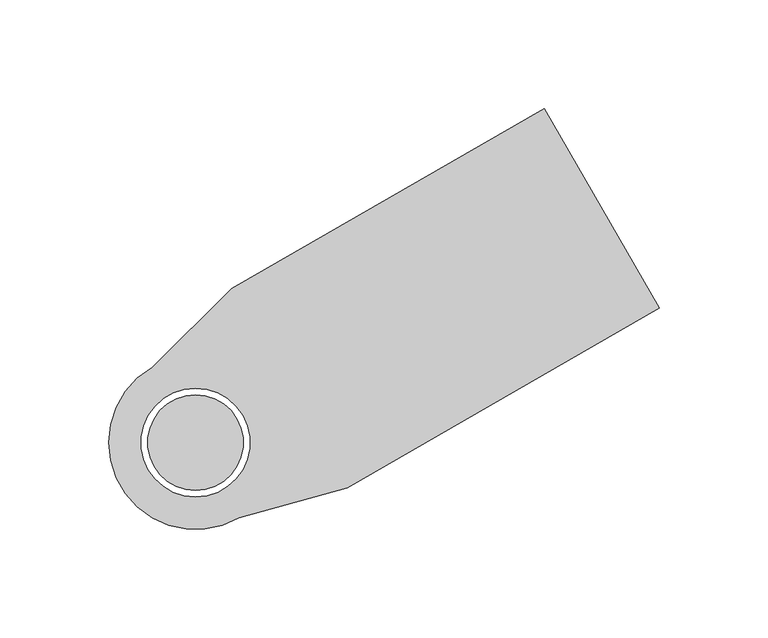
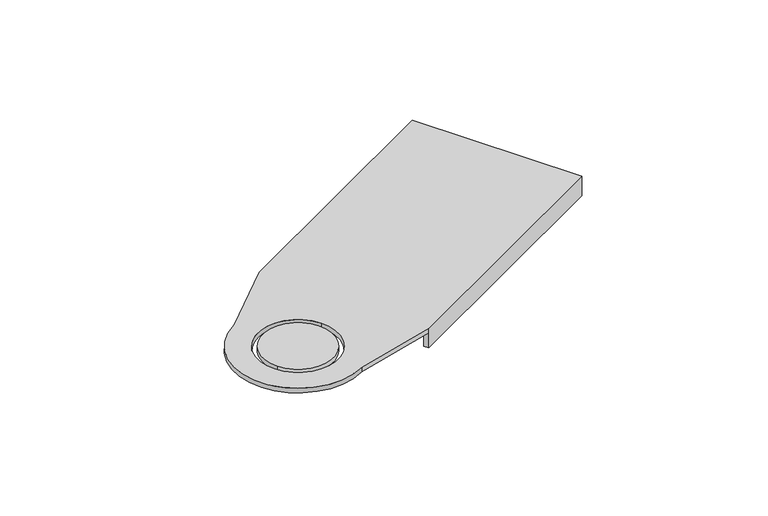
"""IFC4 building model written with IfcOpenShell, lengths in millimetres: cable carrier fitting geometry, BAKS_LDLS_BEND_Articulated connector for LLDS_LGSU : LGSUT_H100."""

from ifc_helpers import new_model, si_unit, frame, origin, place, context, project, spatial, polyline, circle_curve, source, transform, mapped, element, save
from ifc_brep_helpers import plane_surface, cylinder_surface, revolved_surface, advanced_brep


def cable_carrier_fitting_ecbd1058(model_context):
    return source(origin(), model_context, "Body", "AdvancedBrep", [
        advanced_brep(
        [(160.5614872, 153.8993464, 3.0), (16.8012702, 70.8993464, 3.0), (-20.0, 34.6410162, 3.0), (20.0, -34.6410162, 3.0), (69.8012702, -20.8993464, 3.0), (213.5614872, 62.1006536, 3.0), (-21.6506351, -12.5, 3.0), (21.6506351, 12.5, 3.0), (69.8012702, -20.8993464, 0.0), (20.0, -34.6410162, 0.0), (-20.0, 34.6410162, 0.0), (16.8012702, 70.8993464, 0.0), (18.3012702, 68.3012702, 0.0), (162.0614872, 151.3012702, 0.0), (212.0614872, 64.6987298, 0.0), (68.3012702, -18.3012702, 0.0), (21.6506351, 12.5, 0.0), (-21.6506351, -12.5, 0.0), (160.5614872, 153.8993464, -10.0), (16.8012702, 70.8993464, -10.0), (69.8012702, -20.8993464, -10.0), (213.5614872, 62.1006536, -10.0), (212.0614872, 64.6987298, -10.0), (162.0614872, 151.3012702, -10.0), (68.3012702, -18.3012702, -10.0), (18.3012702, 68.3012702, -10.0)],
        [
            (0, 1),
            (1, 2),
            (2, 3, circle_curve(frame((0.0, 0.0, 3.0), z_axis=(0.0, 0.0, 1.0), x_axis=(0.8660254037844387, 0.49999999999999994, 0.0)), 40.0)),
            (3, 4),
            (4, 5),
            (5, 0),
            (6, 7, circle_curve(frame((0.0, 0.0, 3.0), z_axis=(0.0, 0.0, -1.0), x_axis=(0.8660254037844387, 0.49999999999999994, 0.0)), 25.0)),
            (7, 6, circle_curve(frame((0.0, 0.0, 3.0), z_axis=(0.0, 0.0, -1.0), x_axis=(0.8660254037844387, 0.49999999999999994, 0.0)), 25.0)),
            (8, 9),
            (9, 10, circle_curve(frame((0.0, 0.0, 0.0), z_axis=(0.0, 0.0, -1.0), x_axis=(0.8660254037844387, 0.49999999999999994, 0.0)), 40.0)),
            (10, 11),
            (11, 12),
            (12, 13),
            (13, 14),
            (14, 15),
            (15, 8),
            (16, 17, circle_curve(frame((0.0, 0.0, 0.0), z_axis=(0.0, 0.0, 1.0), x_axis=(0.8660254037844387, 0.49999999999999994, 0.0)), 25.0)),
            (17, 16, circle_curve(frame((0.0, 0.0, 0.0), z_axis=(0.0, 0.0, 1.0), x_axis=(0.8660254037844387, 0.49999999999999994, 0.0)), 25.0)),
            (0, 18),
            (18, 19),
            (19, 11),
            (11, 1),
            (4, 8),
            (8, 20),
            (20, 21),
            (21, 5),
            (21, 22),
            (22, 14),
            (13, 23),
            (23, 18),
            (6, 17),
            (16, 7),
            (10, 2),
            (9, 3),
            (20, 24),
            (24, 22),
            (24, 15),
            (23, 25),
            (25, 19),
            (25, 12),
        ],
        [
            plane_surface(frame((16.8012702, 70.8993464, 3.0), z_axis=(0.0, 0.0, 1.0), x_axis=(-0.8660254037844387, -0.49999999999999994, 0.0))),
            plane_surface(frame((16.8012702, 70.8993464, 0.0), z_axis=(0.0, 0.0, -1.0), x_axis=(0.8660254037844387, 0.49999999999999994, 0.0))),
            plane_surface(frame((160.5614872, 153.8993464, 3.0), z_axis=(-0.49999999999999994, 0.8660254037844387, 0.0), x_axis=(0.0, 0.0, -1.0))),
            plane_surface(frame((69.8012702, -20.8993464, 3.0), z_axis=(0.49999999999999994, -0.8660254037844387, 0.0), x_axis=(0.0, 0.0, -1.0))),
            plane_surface(frame((213.5614872, 62.1006536, 3.0), z_axis=(0.8660254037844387, 0.49999999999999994, 0.0), x_axis=(0.0, 0.0, -1.0))),
            revolved_surface(polyline([(21.65063509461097, 12.499999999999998, 3.0), (21.65063509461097, 12.499999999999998, 0.0)]), (0.0, 0.0, 0.0), (0.0, 0.0, 1.0)),
            plane_surface(frame((16.8012702, 70.8993464, 3.0), z_axis=(-0.7018325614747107, 0.7123419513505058, 0.0), x_axis=(0.0, 0.0, -1.0))),
            cylinder_surface(frame((0.0, 0.0, 0.0), z_axis=(0.0, 0.0, 1.0), x_axis=(0.8660254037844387, 0.49999999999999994, 0.0)), 40.0),
            plane_surface(frame((20.0, -34.6410162, 3.0), z_axis=(0.2659899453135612, -0.9639758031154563, 0.0), x_axis=(0.0, 0.0, -1.0))),
            plane_surface(frame((68.3012702, -18.3012702, -10.0), z_axis=(0.0, 0.0, -1.0), x_axis=(0.8660254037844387, 0.5, 0.0))),
            plane_surface(frame((212.0614872, 64.6987298, 0.0), z_axis=(-0.5, 0.8660254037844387, 0.0), x_axis=(0.0, 0.0, -1.0))),
            plane_surface(frame((68.3012702, -18.3012702, 0.0), z_axis=(-0.8660254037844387, -0.49999999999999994, 0.0), x_axis=(0.0, 0.0, -1.0))),
            plane_surface(frame((16.8012702, 70.8993464, -10.0), z_axis=(0.0, 0.0, -1.0), x_axis=(0.8660254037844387, 0.49999999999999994, 0.0))),
            plane_surface(frame((16.8012702, 70.8993464, 0.0), z_axis=(-0.8660254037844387, -0.49999999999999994, 0.0), x_axis=(0.0, 0.0, -1.0))),
            plane_surface(frame((18.3012702, 68.3012702, 0.0), z_axis=(0.5, -0.8660254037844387, 0.0), x_axis=(0.0, 0.0, -1.0))),
        ],
        [
            (0, [[1, 2, 3, 4, 5, 6], [7, 8]]),
            (1, [[9, 10, 11, 12, 13, 14, 15, 16], [17, 18]]),
            (2, [[-1, 19, 20, 21, 22]]),
            (3, [[-5, 23, 24, 25, 26]]),
            (4, [[-19, -6, -26, 27, 28, -14, 29, 30]]),
            (5, [[31, -17, 32, -7]]),
            (5, [[-31, -8, -32, -18]]),
            (6, [[-2, -22, -11, 33]]),
            (7, [[-3, -33, -10, 34]]),
            (8, [[-4, -34, -9, -23]]),
            (9, [[-27, -25, 35, 36]]),
            (10, [[-36, 37, -15, -28]]),
            (11, [[-35, -24, -16, -37]]),
            (12, [[-30, 38, 39, -20]]),
            (13, [[-39, 40, -12, -21]]),
            (14, [[-38, -29, -13, -40]]),
        ],
    ),
        advanced_brep(
        [(-19.0525589, -11.0, 3.0), (19.0525589, 11.0, 3.0), (19.0525589, 11.0, 0.0), (-19.0525589, -11.0, 0.0)],
        [
            (0, 1, circle_curve(frame((0.0, 0.0, 3.0), z_axis=(0.0, 0.0, 1.0), x_axis=(0.8660254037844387, 0.49999999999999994, 0.0)), 22.0)),
            (1, 0, circle_curve(frame((0.0, 0.0, 3.0), z_axis=(0.0, 0.0, 1.0), x_axis=(0.8660254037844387, 0.49999999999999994, 0.0)), 22.0)),
            (2, 3, circle_curve(frame((0.0, 0.0, 0.0), z_axis=(0.0, 0.0, -1.0), x_axis=(0.8660254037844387, 0.49999999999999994, 0.0)), 22.0)),
            (3, 2, circle_curve(frame((0.0, 0.0, 0.0), z_axis=(0.0, 0.0, -1.0), x_axis=(0.8660254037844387, 0.49999999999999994, 0.0)), 22.0)),
            (0, 3),
            (2, 1),
        ],
        [
            plane_surface(frame((16.8012702, 70.8993464, 3.0), z_axis=(0.0, 0.0, 1.0), x_axis=(-0.8660254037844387, -0.49999999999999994, 0.0))),
            plane_surface(frame((16.8012702, 70.8993464, 0.0), z_axis=(0.0, 0.0, -1.0), x_axis=(0.8660254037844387, 0.49999999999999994, 0.0))),
            cylinder_surface(frame((0.0, 0.0, 0.0), z_axis=(0.0, 0.0, -1.0), x_axis=(0.8660254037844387, 0.49999999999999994, 0.0)), 22.0),
        ],
        [
            (0, [[1, 2]]),
            (1, [[3, 4]]),
            (2, [[5, -3, 6, -1]]),
            (2, [[-5, -2, -6, -4]]),
        ],
    ),
    ])


if __name__ == "__main__":
    model = new_model("IFC4")
    model_context = context("Model", 3, world=origin())
    ifc_project = project(units=[si_unit("LENGTHUNIT", "METRE", prefix="MILLI")], contexts=[model_context])
    site = spatial("IfcSite", under=ifc_project)
    building = spatial("IfcBuilding", under=site)
    placement = place(None, origin())
    cable_carrier_fitting_shape = cable_carrier_fitting_ecbd1058(model_context)
    element("IfcCableCarrierFitting", 1, ObjectType="BAKS_LDLS_BEND_Articulated connector for LLDS_LGSU : LGSUT_H100", at=placement, inside=building, context=model_context, shape_type="MappedRepresentation", body=[
        mapped(cable_carrier_fitting_shape, transform((0.0, 0.0, 0.0), x_axis=(1.0, 0.0, 0.0), y_axis=(0.0, 1.0, 0.0), z_axis=(0.0, 0.0, 1.0))),
    ])
    save(model, "model.ifc")
